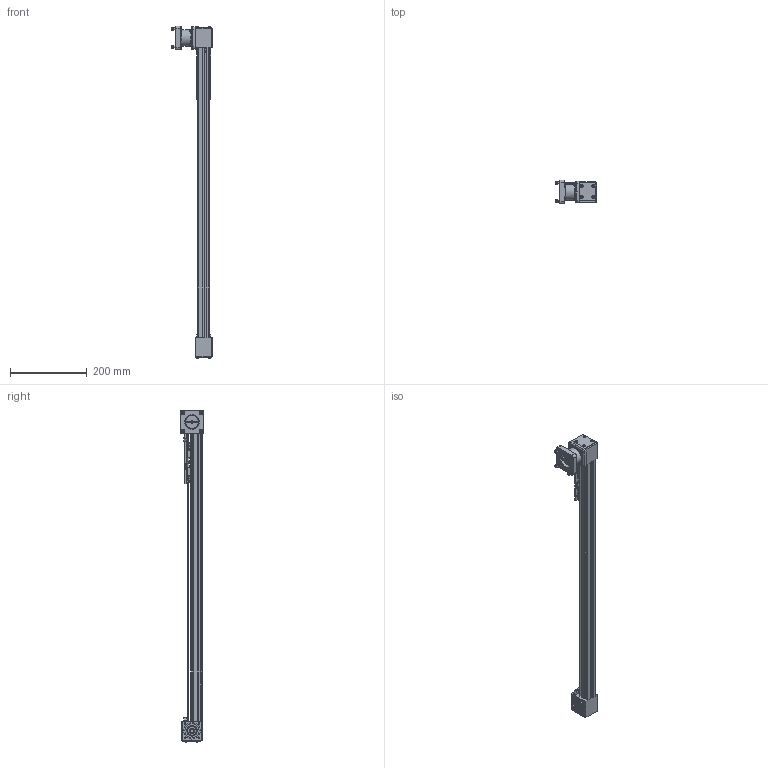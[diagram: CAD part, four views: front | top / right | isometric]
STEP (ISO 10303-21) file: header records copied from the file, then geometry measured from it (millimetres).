
FILE_DESCRIPTION (( 'STEP AP203' ), '1' );
FILE_NAME ('MXB16U_BWS10_SK24.000_MXB-491707-1.step', '2025-06-27T21:20:13', ( '' ), ( '' ), 'SwSTEP 2.0', 'SolidWorks 2024', '' );
FILE_SCHEMA (( 'CONFIG_CONTROL_DESIGN' ));
Length unit declared in the file: inch
Products named in the file (4): tempJoin1_45109053_MXB16U_BWS10_SK24.000_MXB-491707-1; Base_MXB16U_BWS10_SK24.000_MXB-491707-1; MXB16U_BWS10_SK24.000_MXB-491707-1; 85169803_MXB16U_BWS10_SK24.000_MXB-491707-1
Assembly tree (3 placements, depth 2):
  MXB16U_BWS10_SK24.000_MXB-491707-1
    85169803_MXB16U_BWS10_SK24.000_MXB-491707-1
    tempJoin1_45109053_MXB16U_BWS10_SK24.000_MXB-491707-1
    Base_MXB16U_BWS10_SK24.000_MXB-491707-1
Bounding box: 104.6 x 62.28 x 865.93 mm (x, y, z)
Volume: 925562 mm3; surface area: 245130.3 mm2
Topology: 7 solids, 38 shells, 1698 faces, 4092 edges, 2594 vertices
Faces by surface type: plane 946, cylinder 492, cone 184, torus 34, bspline 30, sphere 12
Full cylindrical faces by diameter (mm): 1.575 x8, 1.587 x1, 2.5 x8, 2.921 x4, 3 x19, 3.3 x25, 3.454 x6, 3.91 x2, 3.912 x4, 3.97 x4, 4 x13, 4.2 x2, 4.201 x4, 4.572 x1, 4.623 x4, 4.826 x4, 4.93 x4, 5 x6, 5.001 x4, 5.5 x16, 6 x4, 6.4 x4, 6.604 x4, 7 x9, 7.6 x8, 7.874 x4, 8.5 x4, 9.525 x1, 10 x4, 12.7 x2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
Entity records: 48980 total; most frequent: CARTESIAN_POINT 10908, DIRECTION 7931, ORIENTED_EDGE 7144, EDGE_CURVE 3572, AXIS2_PLACEMENT_3D 2937, VERTEX_POINT 2448, EDGE_LOOP 2310, VECTOR 2057
